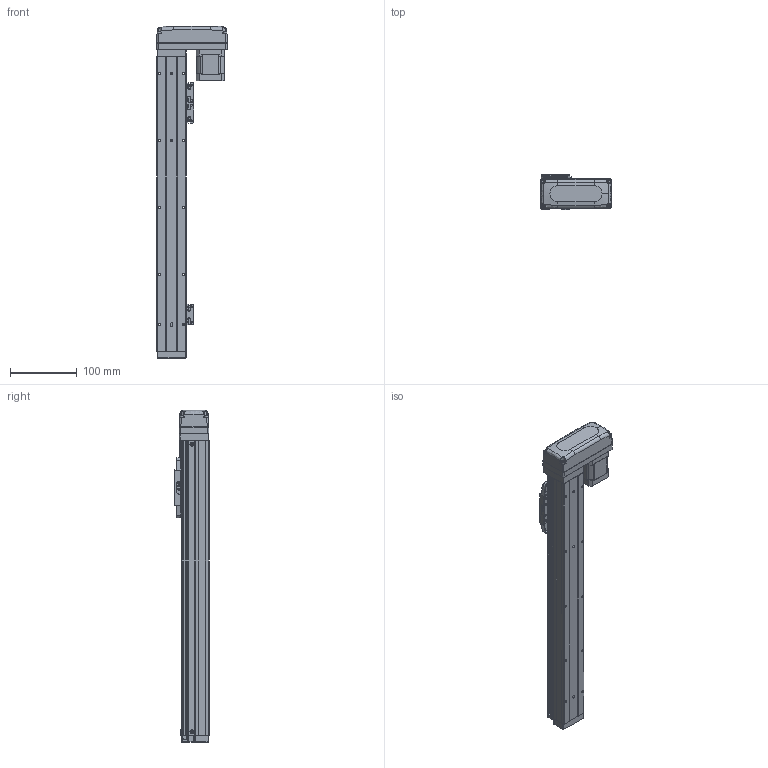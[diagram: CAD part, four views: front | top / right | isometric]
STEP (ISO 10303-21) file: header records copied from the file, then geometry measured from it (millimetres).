
FILE_DESCRIPTION (( 'STEP AP203' ), '1' );
FILE_NAME ('GTH4-300-BL-B42-C4.step', '2023-02-14T00:18:12', ( '微软用户' ), ( '微软中国' ), 'SwSTEP 2.0', 'SolidWorks 2020', '' );
FILE_SCHEMA (( 'CONFIG_CONTROL_DESIGN' ));
Length unit declared in the file: millimetre
Products named in the file (19): BTH50-023; BTH40-013; BTH40-001-50_BTH40-001-300; BTH50-024; GBT 70.3-M3℅6; BTH40-003; GBT 70.1-M3℅6; BTH40-027-1; BTH40-006; GBT96.1-2002 3×0.8; BTH50-026; BTH-M3X5X6; BTH40-022; 42CM06; GBT70.1-2000 M3×16; GBT 70.1-M2.5×6; GTH4-300-BL-B42-C4; BTH50-028; BTH40-004
Assembly tree (47 placements, depth 2):
  GTH4-300-BL-B42-C4
    BTH40-001-50_BTH40-001-300
    BTH40-003
    BTH40-006
    BTH-M3X5X6  x8
    GBT70.1-2000 M3×16  x4
    BTH50-028  x2
    BTH50-023  x3
    BTH50-024  x3
    GBT 70.1-M3℅6  x6
    GBT96.1-2002 3×0.8  x6
    BTH40-022
    GBT 70.1-M2.5×6  x2
    BTH40-004
    BTH40-013
    GBT 70.3-M3℅6  x4
    BTH40-027-1
    BTH50-026
    42CM06
Bounding box: 105 x 52 x 496 mm (x, y, z)
Volume: 930032 mm3; surface area: 198448.2 mm2
Topology: 56 solids, 56 shells, 3311 faces, 7720 edges, 4618 vertices
Faces by surface type: cone 1488, plane 1076, cylinder 569, torus 124, bspline 42, sphere 12
Entity records: 77242 total; most frequent: CARTESIAN_POINT 13937, DIRECTION 13717, ORIENTED_EDGE 12086, EDGE_CURVE 6043, AXIS2_PLACEMENT_3D 5261, VERTEX_POINT 3605, VECTOR 3195, LINE 3195
